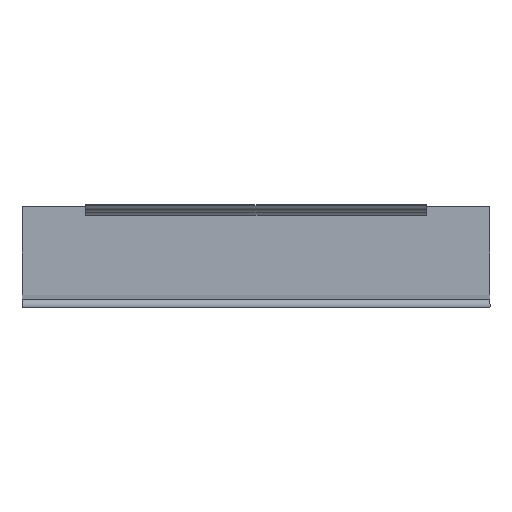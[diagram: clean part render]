
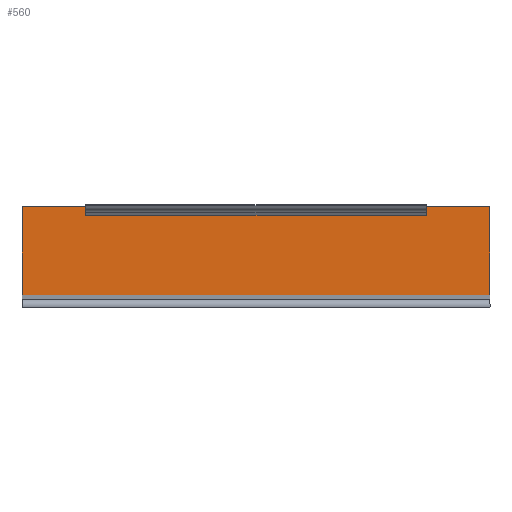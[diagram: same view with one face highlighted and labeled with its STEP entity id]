
A CAD part, left-side view. The second image highlights one B-rep face of the part: STEP entity #560.
In plain terms, the highlighted planar face has unit normal (-1, 0, 0).
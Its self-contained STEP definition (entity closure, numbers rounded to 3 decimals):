
#12 = LINE ( 'NONE', #205, #13 ) ;
#13 = VECTOR ( 'NONE', #206, 1000. ) ;
#28 = EDGE_CURVE ( 'NONE', #118, #155, #515, .T. ) ;
#33 = EDGE_CURVE ( 'NONE', #117, #141, #529, .T. ) ;
#48 = EDGE_CURVE ( 'NONE', #125, #158, #535, .T. ) ;
#59 = EDGE_CURVE ( 'NONE', #122, #118, #12, .T. ) ;
#69 = EDGE_CURVE ( 'NONE', #122, #125, #640, .T. ) ;
#82 = AXIS2_PLACEMENT_3D ( 'NONE', #319, #328, #329 ) ;
#83 = EDGE_CURVE ( 'NONE', #158, #141, #576, .T. ) ;
#97 = EDGE_CURVE ( 'NONE', #117, #120, #578, .T. ) ;
#101 = EDGE_CURVE ( 'NONE', #155, #120, #577, .T. ) ;
#117 = VERTEX_POINT ( 'NONE', #270 ) ;
#118 = VERTEX_POINT ( 'NONE', #258 ) ;
#120 = VERTEX_POINT ( 'NONE', #272 ) ;
#122 = VERTEX_POINT ( 'NONE', #274 ) ;
#125 = VERTEX_POINT ( 'NONE', #277 ) ;
#136 = DIRECTION ( 'NONE',  ( 0., 0., -1. ) ) ;
#141 = VERTEX_POINT ( 'NONE', #284 ) ;
#143 = CARTESIAN_POINT ( 'NONE',  ( 6.024, 249.5, -8.71 ) ) ;
#155 = VERTEX_POINT ( 'NONE', #287 ) ;
#158 = VERTEX_POINT ( 'NONE', #289 ) ;
#168 = CARTESIAN_POINT ( 'NONE',  ( 6.024, 0., -9.925 ) ) ;
#174 = DIRECTION ( 'NONE',  ( 0., -1., 0. ) ) ;
#177 = DIRECTION ( 'NONE',  ( 0., 0., -1. ) ) ;
#193 = CARTESIAN_POINT ( 'NONE',  ( 6.024, 249.5, -8.71 ) ) ;
#205 = CARTESIAN_POINT ( 'NONE',  ( 6.024, 215.5, -2.932 ) ) ;
#206 = DIRECTION ( 'NONE',  ( 0., 0., -1. ) ) ;
#221 = CARTESIAN_POINT ( 'NONE',  ( 6.024, 249.5, -4.106 ) ) ;
#222 = DIRECTION ( 'NONE',  ( 0., 1., 0. ) ) ;
#233 = CARTESIAN_POINT ( 'NONE',  ( 6.024, 249.5, -51.31 ) ) ;
#234 = DIRECTION ( 'NONE',  ( 0., -1., 0. ) ) ;
#249 = CARTESIAN_POINT ( 'NONE',  ( 6.024, 249.5, -4.106 ) ) ;
#250 = DIRECTION ( 'NONE',  ( 0., 1., 0. ) ) ;
#253 = CARTESIAN_POINT ( 'NONE',  ( 6.024, 34., -2.932 ) ) ;
#257 = DIRECTION ( 'NONE',  ( 0., 0., 1. ) ) ;
#258 = CARTESIAN_POINT ( 'NONE',  ( 6.024, 215.5, -8.71 ) ) ;
#270 = CARTESIAN_POINT ( 'NONE',  ( 6.024, 0., -4.106 ) ) ;
#272 = CARTESIAN_POINT ( 'NONE',  ( 6.024, 34., -4.106 ) ) ;
#274 = CARTESIAN_POINT ( 'NONE',  ( 6.024, 215.5, -4.106 ) ) ;
#277 = CARTESIAN_POINT ( 'NONE',  ( 6.024, 249.5, -4.106 ) ) ;
#284 = CARTESIAN_POINT ( 'NONE',  ( 6.024, 0., -51.31 ) ) ;
#287 = CARTESIAN_POINT ( 'NONE',  ( 6.024, 34., -8.71 ) ) ;
#289 = CARTESIAN_POINT ( 'NONE',  ( 6.024, 249.5, -51.31 ) ) ;
#316 = PLANE ( 'NONE',  #82 ) ;
#319 = CARTESIAN_POINT ( 'NONE',  ( 6.024, 249.5, -9.925 ) ) ;
#328 = DIRECTION ( 'NONE',  ( -1., 0., 0. ) ) ;
#329 = DIRECTION ( 'NONE',  ( 0., 0., -1. ) ) ;
#454 = EDGE_LOOP ( 'NONE', ( #507, #499, #487, #488, #493, #503, #492, #486 ) ) ;
#486 = ORIENTED_EDGE ( 'NONE', *, *, #83, .T. ) ;
#487 = ORIENTED_EDGE ( 'NONE', *, *, #101, .F. ) ;
#488 = ORIENTED_EDGE ( 'NONE', *, *, #28, .F. ) ;
#492 = ORIENTED_EDGE ( 'NONE', *, *, #48, .T. ) ;
#493 = ORIENTED_EDGE ( 'NONE', *, *, #59, .F. ) ;
#499 = ORIENTED_EDGE ( 'NONE', *, *, #97, .T. ) ;
#503 = ORIENTED_EDGE ( 'NONE', *, *, #69, .T. ) ;
#507 = ORIENTED_EDGE ( 'NONE', *, *, #33, .F. ) ;
#515 = LINE ( 'NONE', #143, #521 ) ;
#521 = VECTOR ( 'NONE', #174, 1000. ) ;
#529 = LINE ( 'NONE', #168, #530 ) ;
#530 = VECTOR ( 'NONE', #177, 1000. ) ;
#535 = LINE ( 'NONE', #193, #549 ) ;
#549 = VECTOR ( 'NONE', #136, 1000. ) ;
#560 = ADVANCED_FACE ( 'NONE', ( #618 ), #316, .T. ) ;
#576 = LINE ( 'NONE', #233, #581 ) ;
#577 = LINE ( 'NONE', #253, #601 ) ;
#578 = LINE ( 'NONE', #249, #579 ) ;
#579 = VECTOR ( 'NONE', #250, 1000. ) ;
#581 = VECTOR ( 'NONE', #234, 1000. ) ;
#601 = VECTOR ( 'NONE', #257, 1000. ) ;
#618 = FACE_OUTER_BOUND ( 'NONE', #454, .T. ) ;
#640 = LINE ( 'NONE', #221, #641 ) ;
#641 = VECTOR ( 'NONE', #222, 1000. ) ;
